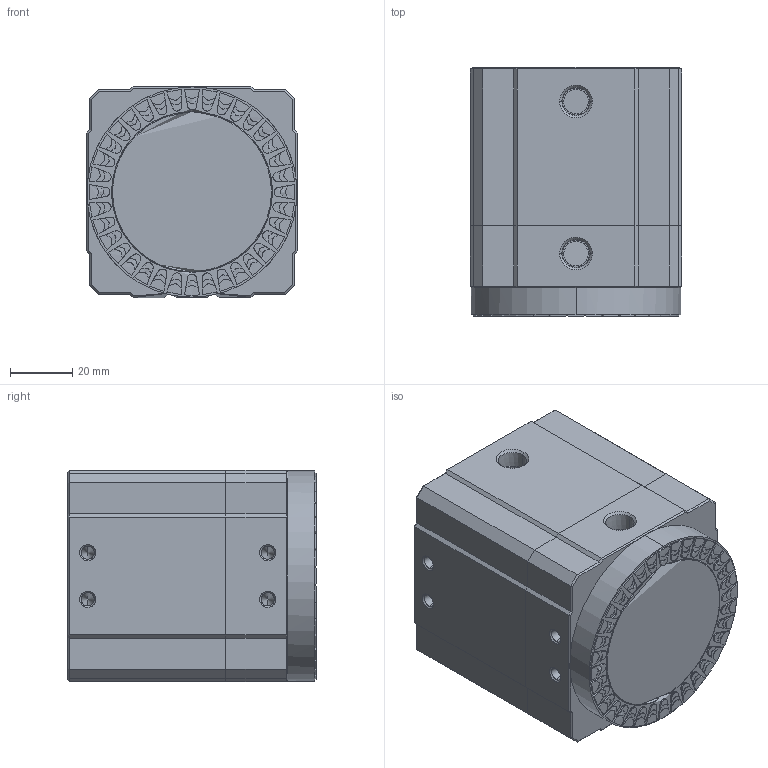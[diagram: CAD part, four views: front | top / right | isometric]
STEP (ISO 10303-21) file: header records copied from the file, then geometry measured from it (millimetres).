
FILE_DESCRIPTION (( 'STEP AP203' ), '1' );
FILE_NAME ('CHM68.STEP', '2021-06-14T18:26:54', ( '' ), ( '' ), 'SwSTEP 2.0', 'SolidWorks 2019', '' );
FILE_SCHEMA (( 'CONFIG_CONTROL_DESIGN' ));
Length unit declared in the file: millimetre
Products named in the file (1): CHM68
Bounding box: 68 x 80.2 x 68 mm (x, y, z)
Surface area: 34697.4 mm2 (no closed solid volume)
Topology: 0 solids, 1 shells, 799 faces, 1998 edges, 1257 vertices
Faces by surface type: plane 533, cylinder 202, cone 56, torus 8
Entity records: 28266 total; most frequent: CARTESIAN_POINT 13228, ORIENTED_EDGE 3984, EDGE_CURVE 1998, B_SPLINE_CURVE_WITH_KNOTS 1998, DIRECTION 1600, VERTEX_POINT 1257, EDGE_LOOP 861, AXIS2_PLACEMENT_3D 800
